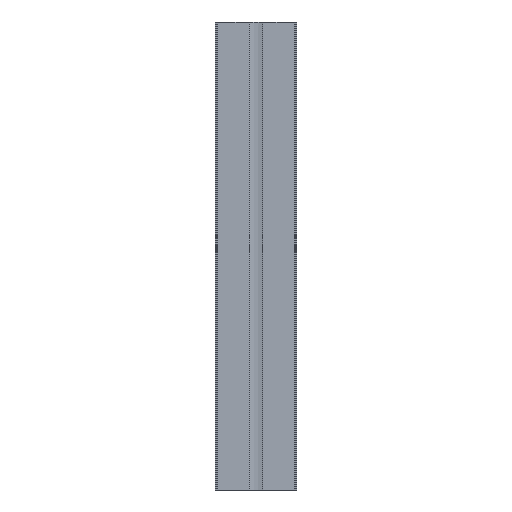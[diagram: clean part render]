
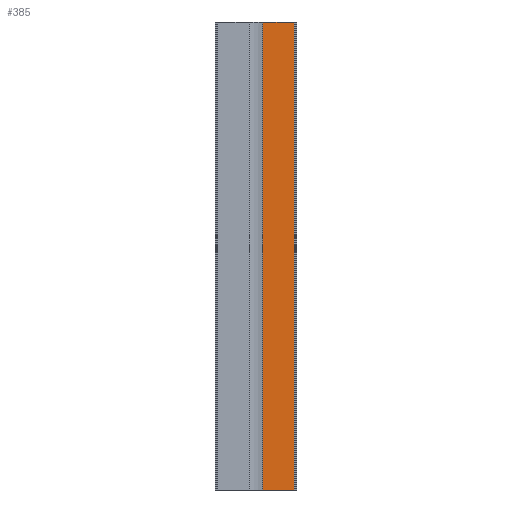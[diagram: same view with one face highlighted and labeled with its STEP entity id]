
A CAD part, front view. The second image highlights one B-rep face of the part: STEP entity #385.
In plain terms, the highlighted planar face has unit normal (0, -1, 0).
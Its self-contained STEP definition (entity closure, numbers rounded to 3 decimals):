
#50 = DIRECTION ( 'NONE',  ( 0., 0., -1. ) ) ;
#91 = VERTEX_POINT ( 'NONE', #663 ) ;
#113 = CARTESIAN_POINT ( 'NONE',  ( 17.5, 0., -600. ) ) ;
#118 = DIRECTION ( 'NONE',  ( 1., 0., 0. ) ) ;
#172 = EDGE_CURVE ( 'NONE', #797, #610, #353, .T. ) ;
#182 = CARTESIAN_POINT ( 'NONE',  ( 98., 0., 600. ) ) ;
#274 = VERTEX_POINT ( 'NONE', #411 ) ;
#284 = PLANE ( 'NONE',  #801 ) ;
#353 = LINE ( 'NONE', #182, #870 ) ;
#358 = LINE ( 'NONE', #891, #523 ) ;
#373 = VECTOR ( 'NONE', #50, 1000. ) ;
#385 = ADVANCED_FACE ( 'NONE', ( #790 ), #284, .F. ) ;
#389 = VECTOR ( 'NONE', #118, 1000. ) ;
#411 = CARTESIAN_POINT ( 'NONE',  ( 17.5, 0., -600. ) ) ;
#462 = CARTESIAN_POINT ( 'NONE',  ( 98., 0., -600. ) ) ;
#517 = ORIENTED_EDGE ( 'NONE', *, *, #172, .T. ) ;
#523 = VECTOR ( 'NONE', #679, 1000. ) ;
#545 = ORIENTED_EDGE ( 'NONE', *, *, #869, .T. ) ;
#548 = CARTESIAN_POINT ( 'NONE',  ( 17.5, 0., 600. ) ) ;
#573 = DIRECTION ( 'NONE',  ( 0., 1., 0. ) ) ;
#578 = LINE ( 'NONE', #113, #389 ) ;
#610 = VERTEX_POINT ( 'NONE', #813 ) ;
#622 = EDGE_LOOP ( 'NONE', ( #645, #517, #875, #545 ) ) ;
#645 = ORIENTED_EDGE ( 'NONE', *, *, #887, .T. ) ;
#663 = CARTESIAN_POINT ( 'NONE',  ( 17.5, 0., 600. ) ) ;
#679 = DIRECTION ( 'NONE',  ( 1., 0., 0. ) ) ;
#683 = DIRECTION ( 'NONE',  ( 0., 0., 1. ) ) ;
#694 = EDGE_CURVE ( 'NONE', #91, #610, #358, .T. ) ;
#790 = FACE_OUTER_BOUND ( 'NONE', #622, .T. ) ;
#795 = DIRECTION ( 'NONE',  ( -1., 0., 0. ) ) ;
#797 = VERTEX_POINT ( 'NONE', #462 ) ;
#801 = AXIS2_PLACEMENT_3D ( 'NONE', #860, #573, #795 ) ;
#813 = CARTESIAN_POINT ( 'NONE',  ( 98., 0., 600. ) ) ;
#819 = LINE ( 'NONE', #548, #373 ) ;
#860 = CARTESIAN_POINT ( 'NONE',  ( 17.5, 0., 600. ) ) ;
#869 = EDGE_CURVE ( 'NONE', #91, #274, #819, .T. ) ;
#870 = VECTOR ( 'NONE', #683, 1000. ) ;
#875 = ORIENTED_EDGE ( 'NONE', *, *, #694, .F. ) ;
#887 = EDGE_CURVE ( 'NONE', #274, #797, #578, .T. ) ;
#891 = CARTESIAN_POINT ( 'NONE',  ( 17.5, 0., 600. ) ) ;
